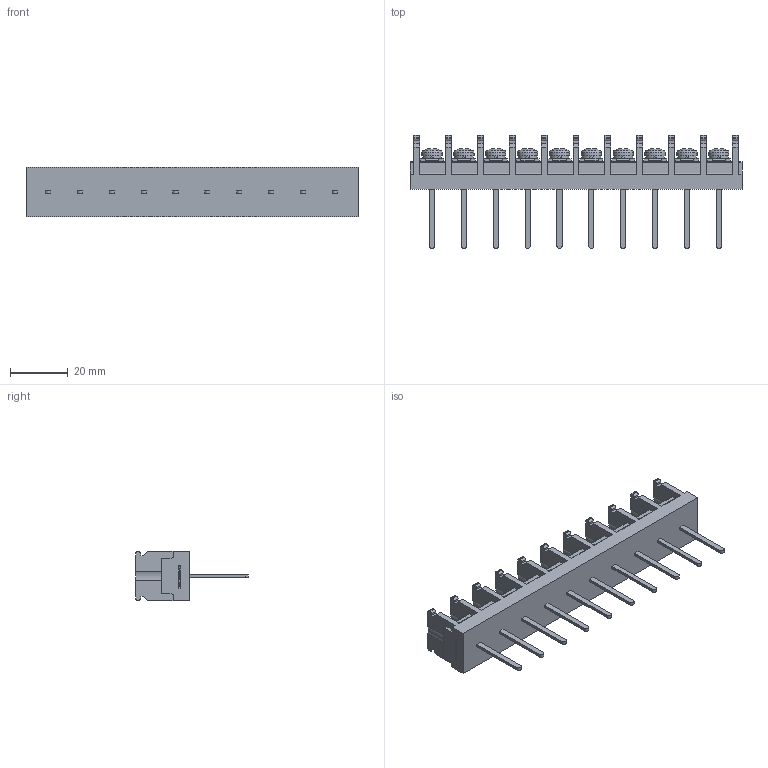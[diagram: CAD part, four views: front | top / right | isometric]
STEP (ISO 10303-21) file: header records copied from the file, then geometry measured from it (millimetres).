
FILE_DESCRIPTION(/* description */ ('Alibre Inc.'),/* implementation_level */ '2;1');
FILE_NAME(/* name */ 'export0',/* time_stamp */ '2015-10-20T07:50:15+09:00',/* author */ (''),/* organization */ (''),/* preprocessor_version */ 'ST-DEVELOPER v14',/* originating_system */ 'Alibre',/* authorisation */ '');
FILE_SCHEMA (('CONFIG_CONTROL_DESIGN'));
Length unit declared in the file: centimetre
Products named in the file (1): ID_1
Bounding box: 114.6 x 39 x 17 mm (x, y, z)
Volume: 21878.3 mm3; surface area: 13019 mm2
Topology: 1 solids, 1 shells, 1158 faces, 3228 edges, 2142 vertices
Faces by surface type: plane 810, cylinder 174, bspline 104, cone 40, torus 20, sphere 10
Full cylindrical faces by diameter (mm): 4 x10, 6.5 x10, 7 x10
Entity records: 35979 total; most frequent: CARTESIAN_POINT 7653, ORIENTED_EDGE 6316, DIRECTION 4776, EDGE_CURVE 3158, VECTOR 2210, LINE 2210, VERTEX_POINT 2112, AXIS2_PLACEMENT_3D 1683
